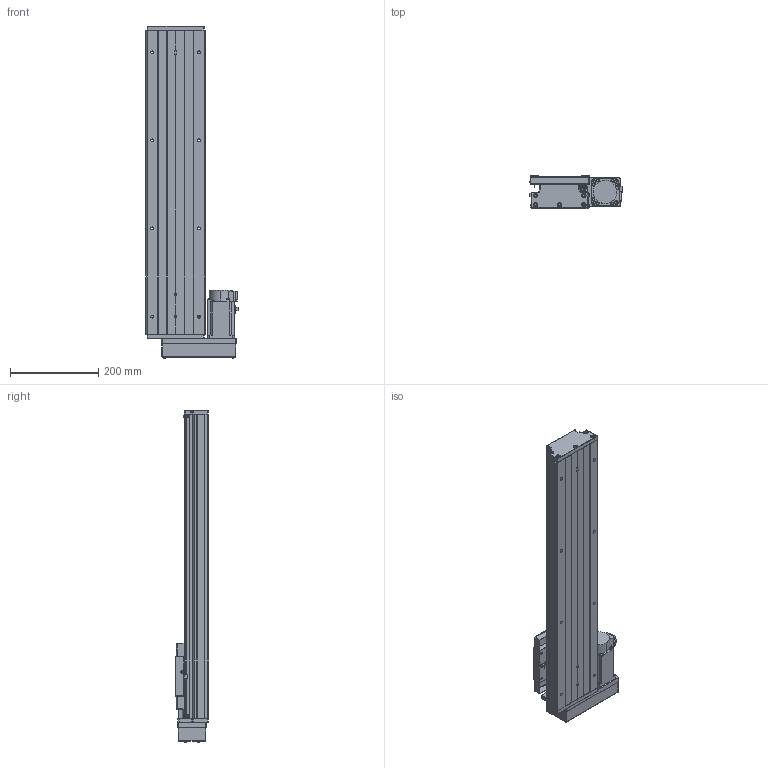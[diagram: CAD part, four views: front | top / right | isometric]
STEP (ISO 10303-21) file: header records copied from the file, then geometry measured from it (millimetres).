
FILE_DESCRIPTION (( 'STEP AP203' ), '1' );
FILE_NAME ('CTH130-500-BR-M40-C4.step', '2023-06-30T02:52:11', ( '微软用户' ), ( '微软中国' ), 'SwSTEP 2.0', 'SolidWorks 2020', '' );
FILE_SCHEMA (( 'CONFIG_CONTROL_DESIGN' ));
Length unit declared in the file: millimetre
Products named in the file (20): GTH14-033; GB1155-6X6; CTH130-031; CTH130-500-BR-M40-C4; GBT70.1 M5℅16; GBT 70.2-M3¡Á5_M3¡Á6; GTH14-001_500; CTHA60-017; す晦芛蹟隊 M3℅5; CTH130-002_GTH14-002; EE_SX911P_R; HG-KN43J-S100; GB T308.1-2013-6.35; CTHA60-016; GBT 70.2-M4¡Á35_M4¡Á35; GTH14-004; GBT 70.1-M3℅5; GTH14-015-2_CTHA86-015-2; GTH14-005; GBT77-2000 M3×3
Assembly tree (60 placements, depth 2):
  CTH130-500-BR-M40-C4
    GTH14-001_500
    CTH130-002_GTH14-002
    GB T308.1-2013-6.35  x2
    GTH14-004
    GTH14-005
    GB1155-6X6  x2
    GBT70.1 M5℅16  x10
    CTHA60-017  x3
    EE_SX911P_R  x3
    CTHA60-016  x2
    GBT 70.1-M3℅5  x6
    GBT77-2000 M3×3  x6
    CTH130-031
    GBT 70.2-M3¡Á5_M3¡Á6  x8
    す晦芛蹟隊 M3℅5  x6
    HG-KN43J-S100
    GBT 70.2-M4¡Á35_M4¡Á35  x4
    GTH14-015-2_CTHA86-015-2
    GTH14-033
Bounding box: 209.3 x 76 x 754.2 mm (x, y, z)
Volume: 4150465.1 mm3; surface area: 725480 mm2
Topology: 63 solids, 63 shells, 2425 faces, 5773 edges, 3569 vertices
Faces by surface type: plane 1308, cylinder 638, cone 299, torus 124, sphere 36, bspline 20
Entity records: 43616 total; most frequent: CARTESIAN_POINT 9797, DIRECTION 6342, ORIENTED_EDGE 6252, EDGE_CURVE 3126, AXIS2_PLACEMENT_3D 2158, VECTOR 2026, LINE 2026, VERTEX_POINT 1979
